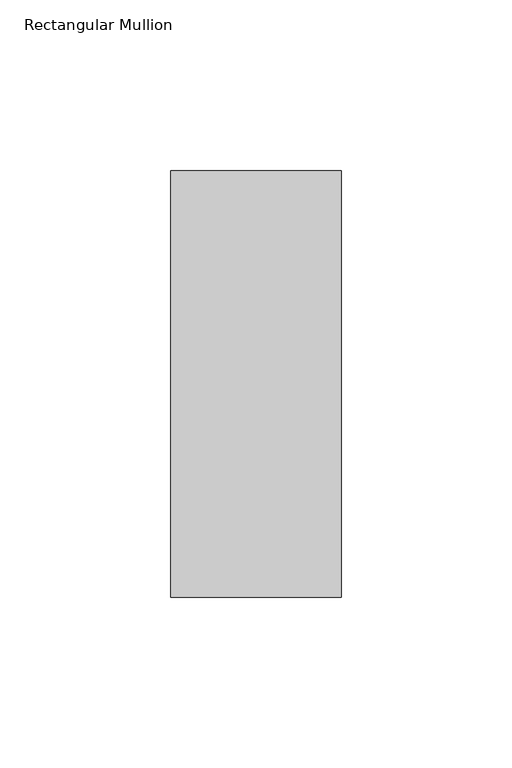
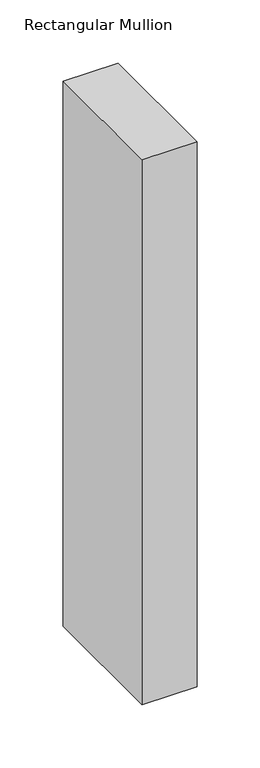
"""IFC4 building model written with IfcOpenShell, lengths in millimetres: member geometry, Rectangular Mullion : DucoSun Cubic Design profile 50x125 for louvre 600."""

from ifc_helpers import new_model, si_unit, frame, origin, place, context, project, spatial, polyline, outline, extrude, source, transform, mapped, element, save


def rectangular_mullion_909f0e36(model_context):
    return source(origin(), model_context, "Body", "SweptSolid", [
        extrude(outline(polyline([(0.0, 237.5), (-50.0, 237.5), (-50.0, 362.5), (0.0, 362.5), (0.0, 237.5)])), frame((0.0, 0.0, -525.5000002), z_axis=(0.0, 0.0, 1.0), x_axis=(1.0, 0.0, 0.0)), (0.0, 0.0, 1.0), 525.5000002),
    ])


if __name__ == "__main__":
    model = new_model("IFC4")
    model_context = context("Model", 3, world=origin())
    ifc_project = project(units=[si_unit("LENGTHUNIT", "METRE", prefix="MILLI")], contexts=[model_context])
    site = spatial("IfcSite", under=ifc_project)
    building = spatial("IfcBuilding", under=site)
    placement = place(None, origin())
    rectangular_mullion_shape = rectangular_mullion_909f0e36(model_context)
    element("IfcMember", 1, ObjectType="Rectangular Mullion : DucoSun Cubic Design profile 50x125 for louvre 600", at=placement, inside=building, context=model_context, shape_type="MappedRepresentation", body=[
        mapped(rectangular_mullion_shape, transform((0.0, 0.0, 0.0), x_axis=(1.0, 0.0, 0.0), y_axis=(0.0, 1.0, 0.0), z_axis=(0.0, 0.0, 1.0))),
    ])
    save(model, "model.ifc")
